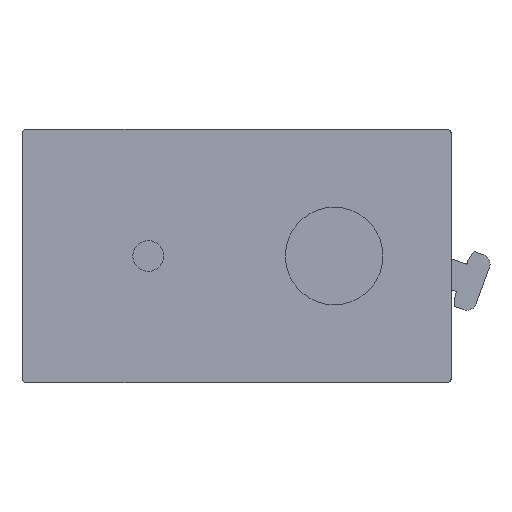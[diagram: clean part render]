
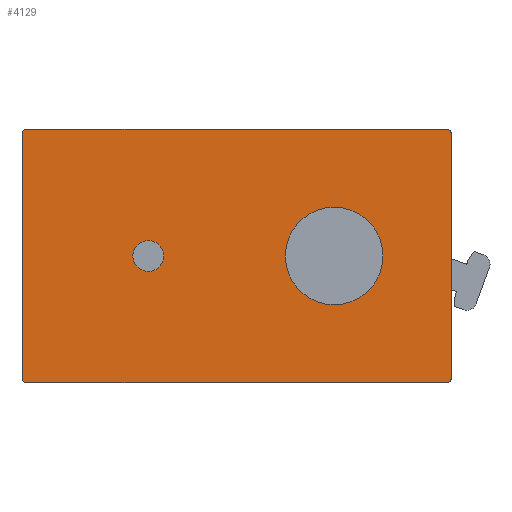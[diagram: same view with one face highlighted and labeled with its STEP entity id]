
A CAD part, front view. The second image highlights one B-rep face of the part: STEP entity #4129.
In plain terms, the highlighted planar face has unit normal (0, -1, 0).
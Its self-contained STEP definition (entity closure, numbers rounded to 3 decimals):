
#66 = ORIENTED_EDGE ( 'NONE', *, *, #1159, .T. ) ;
#116 = ORIENTED_EDGE ( 'NONE', *, *, #3232, .F. ) ;
#129 = CIRCLE ( 'NONE', #4027, 5. ) ;
#255 = EDGE_CURVE ( 'NONE', #5813, #5160, #2633, .T. ) ;
#356 = CARTESIAN_POINT ( 'NONE',  ( 0., -15., -5. ) ) ;
#448 = CARTESIAN_POINT ( 'NONE',  ( 11.5, -15., -12.5 ) ) ;
#493 = DIRECTION ( 'NONE',  ( 0., -1., 0. ) ) ;
#617 = DIRECTION ( 'NONE',  ( 1., 0., 0. ) ) ;
#645 = CIRCLE ( 'NONE', #4317, 0.5 ) ;
#726 = DIRECTION ( 'NONE',  ( 0., -1., 0. ) ) ;
#872 = CARTESIAN_POINT ( 'NONE',  ( -32., -15., -12.5 ) ) ;
#978 = ORIENTED_EDGE ( 'NONE', *, *, #6857, .F. ) ;
#984 = DIRECTION ( 'NONE',  ( 0., -1., 0. ) ) ;
#1060 = DIRECTION ( 'NONE',  ( 0., -1., 0. ) ) ;
#1103 = FACE_BOUND ( 'NONE', #3787, .T. ) ;
#1117 = AXIS2_PLACEMENT_3D ( 'NONE', #1205, #3864, #2810 ) ;
#1159 = EDGE_CURVE ( 'NONE', #4979, #6025, #645, .T. ) ;
#1205 = CARTESIAN_POINT ( 'NONE',  ( 11.5, -15., 12.5 ) ) ;
#1282 = DIRECTION ( 'NONE',  ( 0., 0., -1. ) ) ;
#1479 = CARTESIAN_POINT ( 'NONE',  ( -32., -15., -13. ) ) ;
#1684 = EDGE_CURVE ( 'NONE', #5813, #1995, #5494, .T. ) ;
#1775 = ORIENTED_EDGE ( 'NONE', *, *, #1684, .F. ) ;
#1835 = PLANE ( 'NONE',  #5340 ) ;
#1922 = CARTESIAN_POINT ( 'NONE',  ( 12., -15., 12.5 ) ) ;
#1960 = VECTOR ( 'NONE', #3065, 1000. ) ;
#1995 = VERTEX_POINT ( 'NONE', #5682 ) ;
#2015 = LINE ( 'NONE', #3005, #4626 ) ;
#2080 = CARTESIAN_POINT ( 'NONE',  ( -19.05, -15., 0. ) ) ;
#2096 = FACE_BOUND ( 'NONE', #4052, .T. ) ;
#2149 = CARTESIAN_POINT ( 'NONE',  ( -31.5, -15., -12.5 ) ) ;
#2236 = CARTESIAN_POINT ( 'NONE',  ( 0., -15., 0. ) ) ;
#2288 = VERTEX_POINT ( 'NONE', #4149 ) ;
#2422 = VERTEX_POINT ( 'NONE', #356 ) ;
#2596 = DIRECTION ( 'NONE',  ( 0., 0., -1. ) ) ;
#2633 = CIRCLE ( 'NONE', #4375, 0.5 ) ;
#2705 = DIRECTION ( 'NONE',  ( 0., 0., -1. ) ) ;
#2737 = DIRECTION ( 'NONE',  ( 0., 0., -1. ) ) ;
#2810 = DIRECTION ( 'NONE',  ( 0., 0., -1. ) ) ;
#2936 = CARTESIAN_POINT ( 'NONE',  ( -19.05, -15., -1.587 ) ) ;
#2952 = LINE ( 'NONE', #6399, #3446 ) ;
#3005 = CARTESIAN_POINT ( 'NONE',  ( 12., -15., 13. ) ) ;
#3012 = EDGE_CURVE ( 'NONE', #4917, #5160, #2952, .T. ) ;
#3013 = EDGE_CURVE ( 'NONE', #2422, #2422, #129, .T. ) ;
#3065 = DIRECTION ( 'NONE',  ( -1., 0., 0. ) ) ;
#3232 = EDGE_CURVE ( 'NONE', #4979, #2288, #3372, .T. ) ;
#3271 = DIRECTION ( 'NONE',  ( 0., -1., 0. ) ) ;
#3372 = LINE ( 'NONE', #1479, #1960 ) ;
#3446 = VECTOR ( 'NONE', #3776, 1000. ) ;
#3511 = AXIS2_PLACEMENT_3D ( 'NONE', #2149, #1060, #2705 ) ;
#3658 = DIRECTION ( 'NONE',  ( 0., 0., -1. ) ) ;
#3691 = CIRCLE ( 'NONE', #3511, 0.5 ) ;
#3776 = DIRECTION ( 'NONE',  ( 0., 0., 1. ) ) ;
#3779 = CARTESIAN_POINT ( 'NONE',  ( -32., -15., 13. ) ) ;
#3787 = EDGE_LOOP ( 'NONE', ( #6613 ) ) ;
#3809 = EDGE_CURVE ( 'NONE', #4917, #2288, #3691, .T. ) ;
#3841 = ORIENTED_EDGE ( 'NONE', *, *, #3809, .T. ) ;
#3864 = DIRECTION ( 'NONE',  ( 0., -1., 0. ) ) ;
#3909 = VERTEX_POINT ( 'NONE', #2936 ) ;
#3944 = VECTOR ( 'NONE', #617, 1000. ) ;
#4027 = AXIS2_PLACEMENT_3D ( 'NONE', #2236, #3271, #2737 ) ;
#4052 = EDGE_LOOP ( 'NONE', ( #6729 ) ) ;
#4070 = FACE_OUTER_BOUND ( 'NONE', #6249, .T. ) ;
#4079 = CARTESIAN_POINT ( 'NONE',  ( -31.5, -15., 13. ) ) ;
#4091 = CARTESIAN_POINT ( 'NONE',  ( -31.5, -15., 12.5 ) ) ;
#4129 = ADVANCED_FACE ( 'NONE', ( #1103, #2096, #4070 ), #1835, .T. ) ;
#4142 = DIRECTION ( 'NONE',  ( 0., 0., -1. ) ) ;
#4149 = CARTESIAN_POINT ( 'NONE',  ( -31.5, -15., -13. ) ) ;
#4212 = VERTEX_POINT ( 'NONE', #1922 ) ;
#4239 = CARTESIAN_POINT ( 'NONE',  ( 12., -15., -12.5 ) ) ;
#4317 = AXIS2_PLACEMENT_3D ( 'NONE', #448, #984, #3658 ) ;
#4375 = AXIS2_PLACEMENT_3D ( 'NONE', #4091, #6756, #2596 ) ;
#4626 = VECTOR ( 'NONE', #6689, 1000. ) ;
#4755 = AXIS2_PLACEMENT_3D ( 'NONE', #2080, #493, #4142 ) ;
#4800 = CIRCLE ( 'NONE', #4755, 1.587 ) ;
#4858 = ORIENTED_EDGE ( 'NONE', *, *, #5637, .T. ) ;
#4917 = VERTEX_POINT ( 'NONE', #872 ) ;
#4973 = EDGE_CURVE ( 'NONE', #3909, #3909, #4800, .T. ) ;
#4979 = VERTEX_POINT ( 'NONE', #6770 ) ;
#5160 = VERTEX_POINT ( 'NONE', #6293 ) ;
#5340 = AXIS2_PLACEMENT_3D ( 'NONE', #5488, #726, #1282 ) ;
#5488 = CARTESIAN_POINT ( 'NONE',  ( 0., -15., 0. ) ) ;
#5494 = LINE ( 'NONE', #3779, #3944 ) ;
#5637 = EDGE_CURVE ( 'NONE', #4212, #1995, #5971, .T. ) ;
#5682 = CARTESIAN_POINT ( 'NONE',  ( 11.5, -15., 13. ) ) ;
#5702 = ORIENTED_EDGE ( 'NONE', *, *, #3012, .F. ) ;
#5813 = VERTEX_POINT ( 'NONE', #4079 ) ;
#5915 = ORIENTED_EDGE ( 'NONE', *, *, #255, .T. ) ;
#5971 = CIRCLE ( 'NONE', #1117, 0.5 ) ;
#6025 = VERTEX_POINT ( 'NONE', #4239 ) ;
#6249 = EDGE_LOOP ( 'NONE', ( #978, #4858, #1775, #5915, #5702, #3841, #116, #66 ) ) ;
#6293 = CARTESIAN_POINT ( 'NONE',  ( -32., -15., 12.5 ) ) ;
#6399 = CARTESIAN_POINT ( 'NONE',  ( -32., -15., 13. ) ) ;
#6613 = ORIENTED_EDGE ( 'NONE', *, *, #3013, .F. ) ;
#6689 = DIRECTION ( 'NONE',  ( 0., 0., -1. ) ) ;
#6729 = ORIENTED_EDGE ( 'NONE', *, *, #4973, .F. ) ;
#6756 = DIRECTION ( 'NONE',  ( 0., -1., 0. ) ) ;
#6770 = CARTESIAN_POINT ( 'NONE',  ( 11.5, -15., -13. ) ) ;
#6857 = EDGE_CURVE ( 'NONE', #4212, #6025, #2015, .T. ) ;
